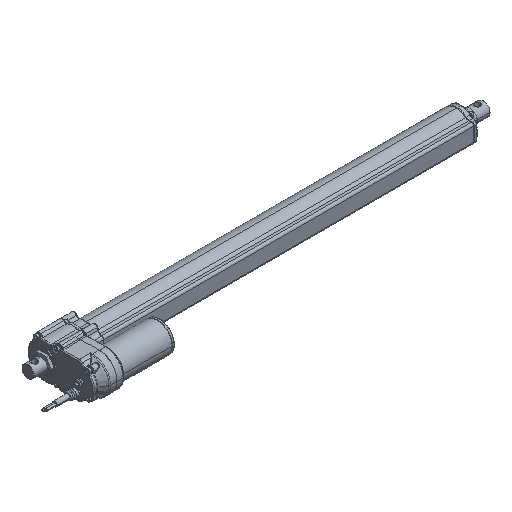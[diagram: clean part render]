
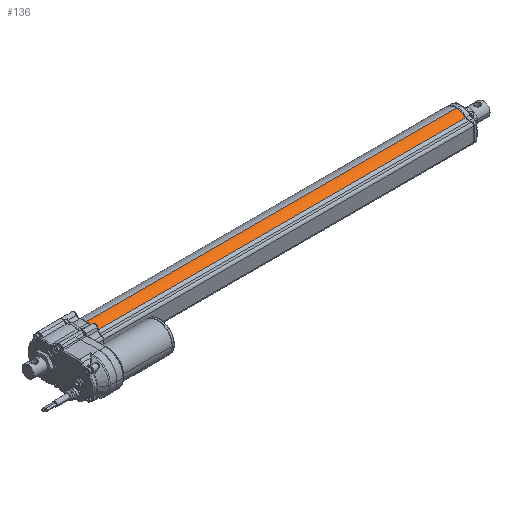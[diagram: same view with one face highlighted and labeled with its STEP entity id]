
A CAD part, isometric view. The second image highlights one B-rep face of the part: STEP entity #136.
In plain terms, the highlighted cylindrical face has radius 30.5 mm (diameter 61 mm), a partial arc.
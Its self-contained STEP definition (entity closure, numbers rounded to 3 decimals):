
#136=ADVANCED_FACE('',(#1138),#1139,.T.);
#1138=FACE_OUTER_BOUND('',#3063,.T.);
#1139=CYLINDRICAL_SURFACE('',#3064,30.5);
#3063=EDGE_LOOP('',(#8479,#8480,#8481,#8482));
#3064=AXIS2_PLACEMENT_3D('',#8483,#8484,#8485);
#8479=ORIENTED_EDGE('',*,*,#15518,.F.);
#8480=ORIENTED_EDGE('',*,*,#15519,.F.);
#8481=ORIENTED_EDGE('',*,*,#15520,.T.);
#8482=ORIENTED_EDGE('',*,*,#15521,.F.);
#8483=CARTESIAN_POINT('',(94.3,0.,0.));
#8484=DIRECTION('',(1.0,0.,0.));
#8485=DIRECTION('',(0.,0.,1.0));
#15518=EDGE_CURVE('',#18125,#18126,#18127,.T.);
#15519=EDGE_CURVE('',#18128,#18125,#18129,.T.);
#15520=EDGE_CURVE('',#18128,#18130,#18131,.T.);
#15521=EDGE_CURVE('',#18126,#18130,#18132,.T.);
#18125=VERTEX_POINT('',#23105);
#18126=VERTEX_POINT('',#23106);
#18127=LINE('',#23107,#23108);
#18128=VERTEX_POINT('',#23109);
#18129=CIRCLE('',#23110,30.5);
#18130=VERTEX_POINT('',#23111);
#18131=LINE('',#23112,#23113);
#18132=CIRCLE('',#23114,30.5);
#23105=CARTESIAN_POINT('',(94.3,0.,30.5));
#23106=CARTESIAN_POINT('',(889.5,0.,30.5));
#23107=CARTESIAN_POINT('',(94.3,0.,30.5));
#23108=VECTOR('',#38996,1.0);
#23109=CARTESIAN_POINT('',(94.3,-20.49,22.593));
#23110=AXIS2_PLACEMENT_3D('',#38997,#38998,#38999);
#23111=CARTESIAN_POINT('',(889.5,-20.49,22.593));
#23112=CARTESIAN_POINT('',(94.3,-20.49,22.593));
#23113=VECTOR('',#39000,1.0);
#23114=AXIS2_PLACEMENT_3D('',#39001,#39002,#39003);
#38996=DIRECTION('',(1.0,0.,0.));
#38997=CARTESIAN_POINT('',(94.3,0.,0.));
#38998=DIRECTION('',(-1.0,0.,0.));
#38999=DIRECTION('',(0.,0.,1.0));
#39000=DIRECTION('',(1.0,0.,0.));
#39001=CARTESIAN_POINT('',(889.5,0.,0.));
#39002=DIRECTION('',(1.0,0.,0.));
#39003=DIRECTION('',(0.,0.,1.0));
